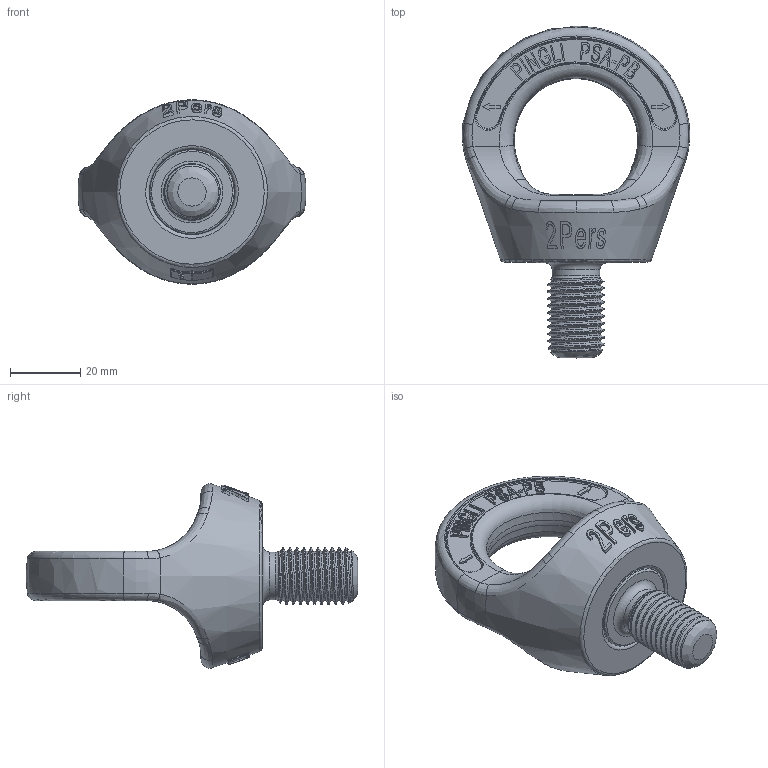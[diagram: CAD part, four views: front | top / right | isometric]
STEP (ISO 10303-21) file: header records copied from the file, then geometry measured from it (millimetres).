
FILE_DESCRIPTION(/* description */ (''),/* implementation_level */ '2;1');
FILE_NAME(/* name */ 'PSA-M16..stp',/* time_stamp */ '2024-06-25T10:24:42+08:00',/* author */ (''),/* organization */ (''),/* preprocessor_version */ 'ST-DEVELOPER v16',/* originating_system */ 'SIEMENS PLM Software NX 10.0',/* authorisation */ '');
FILE_SCHEMA (('CONFIG_CONTROL_DESIGN'));
Products named in the file (1): PSA-M16.prt_model
Bounding box: 64.66 x 94.25 x 52.34 mm (x, y, z)
Volume: 59387.5 mm3; surface area: 18006.7 mm2
Topology: 2 solids, 2 shells, 940 faces, 4055 edges, 3202 vertices
Faces by surface type: bspline 495, plane 354, cylinder 37, torus 33, cone 19, sphere 2
Full cylindrical faces by diameter (mm): 13.6 x1, 24 x1, 24.3 x2, 31 x1, 31.8 x1
Entity records: 62895 total; most frequent: CARTESIAN_POINT 39903, ORIENTED_EDGE 8042, EDGE_CURVE 4021, VERTEX_POINT 3201, B_SPLINE_CURVE_WITH_KNOTS 2800, EDGE_LOOP 1058, ADVANCED_FACE 939, DIRECTION 892
